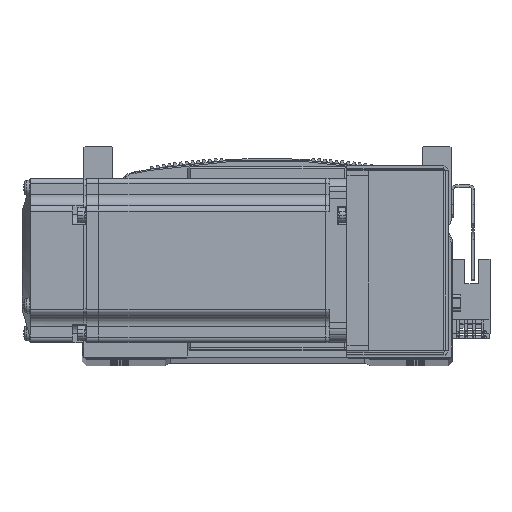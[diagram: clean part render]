
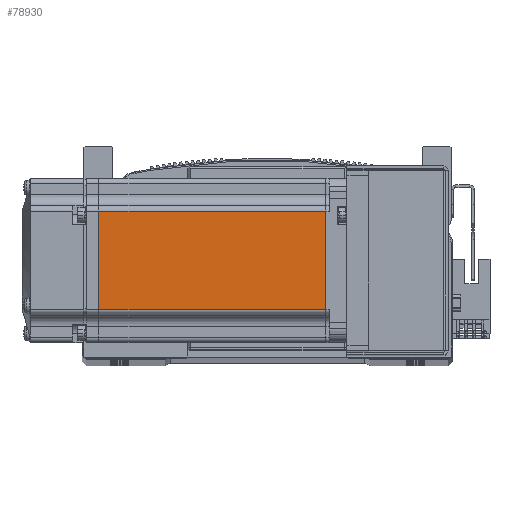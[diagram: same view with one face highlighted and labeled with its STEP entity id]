
A CAD part, top view. The second image highlights one B-rep face of the part: STEP entity #78930.
In plain terms, the highlighted planar face has unit normal (0, 0, 1) as drawn and (0, -1, 0) by its records, which use the part's own axes.
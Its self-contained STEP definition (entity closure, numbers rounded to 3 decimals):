
#982 = VERTEX_POINT ( 'NONE', #86058 ) ;
#1011 = VERTEX_POINT ( 'NONE', #86135 ) ;
#1023 = VERTEX_POINT ( 'NONE', #86179 ) ;
#1050 = VERTEX_POINT ( 'NONE', #86229 ) ;
#2540 = LINE ( 'NONE', #4693, #2562 ) ;
#2543 = LINE ( 'NONE', #4689, #2568 ) ;
#2562 = VECTOR ( 'NONE', #4685, 1000. ) ;
#2568 = VECTOR ( 'NONE', #4674, 1000. ) ;
#3130 = LINE ( 'NONE', #4517, #3156 ) ;
#3141 = VECTOR ( 'NONE', #4479, 1000. ) ;
#3145 = LINE ( 'NONE', #4424, #3141 ) ;
#3156 = VECTOR ( 'NONE', #4525, 1000. ) ;
#4424 = CARTESIAN_POINT ( 'NONE',  ( -7.75, -30., 0. ) ) ;
#4479 = DIRECTION ( 'NONE',  ( 0., 0., -1. ) ) ;
#4517 = CARTESIAN_POINT ( 'NONE',  ( -6.5, -30., -18. ) ) ;
#4525 = DIRECTION ( 'NONE',  ( -1., 0., 0. ) ) ;
#4674 = DIRECTION ( 'NONE',  ( 0., 0., -1. ) ) ;
#4685 = DIRECTION ( 'NONE',  ( -1., 0., 0. ) ) ;
#4689 = CARTESIAN_POINT ( 'NONE',  ( -90.45, -30., 0. ) ) ;
#4693 = CARTESIAN_POINT ( 'NONE',  ( -6.5, -30., 18. ) ) ;
#35346 = DIRECTION ( 'NONE',  ( 0., -1., 0. ) ) ;
#35423 = CARTESIAN_POINT ( 'NONE',  ( -6.5, -30., -25. ) ) ;
#35426 = PLANE ( 'NONE',  #72667 ) ;
#35461 = DIRECTION ( 'NONE',  ( 0., 0., -1. ) ) ;
#41676 = FACE_OUTER_BOUND ( 'NONE', #83729, .T. ) ;
#66745 = ORIENTED_EDGE ( 'NONE', *, *, #80864, .T. ) ;
#66782 = ORIENTED_EDGE ( 'NONE', *, *, #80839, .F. ) ;
#66805 = ORIENTED_EDGE ( 'NONE', *, *, #80823, .F. ) ;
#66826 = ORIENTED_EDGE ( 'NONE', *, *, #80873, .T. ) ;
#72667 = AXIS2_PLACEMENT_3D ( 'NONE', #35423, #35346, #35461 ) ;
#78930 = ADVANCED_FACE ( 'NONE', ( #41676 ), #35426, .T. ) ;
#80823 = EDGE_CURVE ( 'NONE', #982, #1023, #3145, .T. ) ;
#80839 = EDGE_CURVE ( 'NONE', #1023, #1050, #3130, .T. ) ;
#80864 = EDGE_CURVE ( 'NONE', #982, #1011, #2540, .T. ) ;
#80873 = EDGE_CURVE ( 'NONE', #1011, #1050, #2543, .T. ) ;
#83729 = EDGE_LOOP ( 'NONE', ( #66805, #66745, #66826, #66782 ) ) ;
#86058 = CARTESIAN_POINT ( 'NONE',  ( -7.75, -30., 18. ) ) ;
#86135 = CARTESIAN_POINT ( 'NONE',  ( -90.45, -30., 18. ) ) ;
#86179 = CARTESIAN_POINT ( 'NONE',  ( -7.75, -30., -18. ) ) ;
#86229 = CARTESIAN_POINT ( 'NONE',  ( -90.45, -30., -18. ) ) ;
